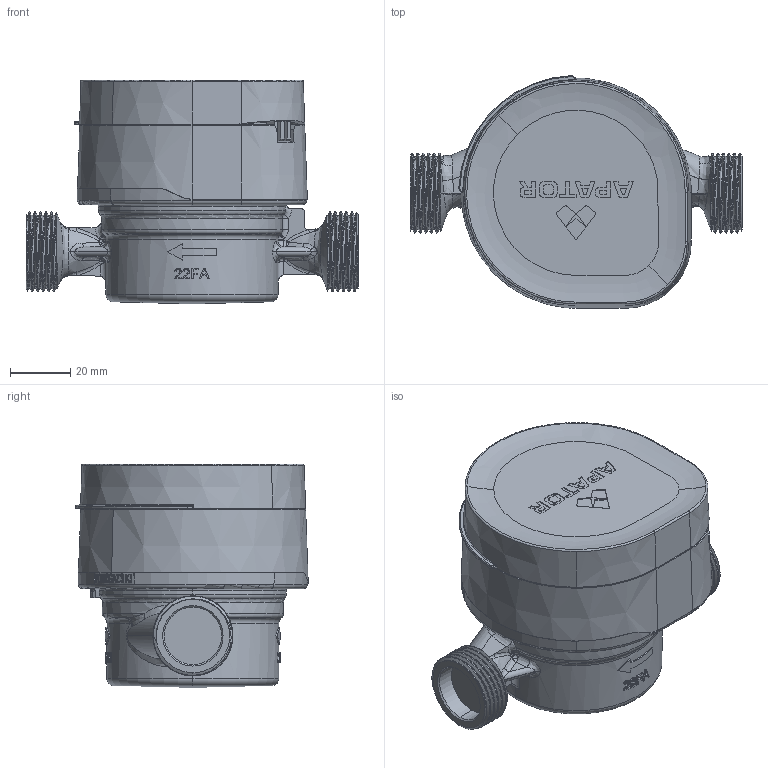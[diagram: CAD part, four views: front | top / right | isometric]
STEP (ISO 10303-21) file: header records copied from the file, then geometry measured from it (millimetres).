
FILE_DESCRIPTION (( 'STEP AP214' ), '1' );
FILE_NAME ('JS90-2,5-05.STEP', '2025-05-23T07:31:55', ( '' ), ( '' ), 'SwSTEP 2.0', 'SolidWorks 2019', '' );
FILE_SCHEMA (( 'AUTOMOTIVE_DESIGN' ));
Length unit declared in the file: millimetre
Products named in the file (11): JS90-2,5-05; Part-3118.STEP; js2,5.STEP; Liczyd_o.STEP; 9004-750201.STEP; Part-3117.STEP; Assembly-1108.STEP; 9004-750202_zagi_ta.STEP; szklanka.STEP; Part-3116.STEP; JS90-2,5-05.STEP
Assembly tree (10 placements, depth 4):
  JS90-2,5-05
    JS90-2,5-05.STEP
      Assembly-1108.STEP
        9004-750201.STEP
        9004-750202_zagi_ta.STEP
      js2,5.STEP
      Liczyd_o.STEP
      Part-3118.STEP
      Part-3117.STEP
      Part-3116.STEP
      szklanka.STEP
Bounding box: 110 x 77.02 x 74.14 mm (x, y, z)
Volume: 241775.2 mm3; surface area: 96493.8 mm2
Topology: 8 solids, 17 shells, 2521 faces, 6946 edges, 4509 vertices
Faces by surface type: plane 1070, bspline 614, cylinder 467, cone 258, torus 92, sphere 20
Entity records: 146208 total; most frequent: CARTESIAN_POINT 80594, ORIENTED_EDGE 13816, DIRECTION 9885, EDGE_CURVE 6908, VERTEX_POINT 4506, AXIS2_PLACEMENT_3D 3624, EDGE_LOOP 2702, VECTOR 2637
